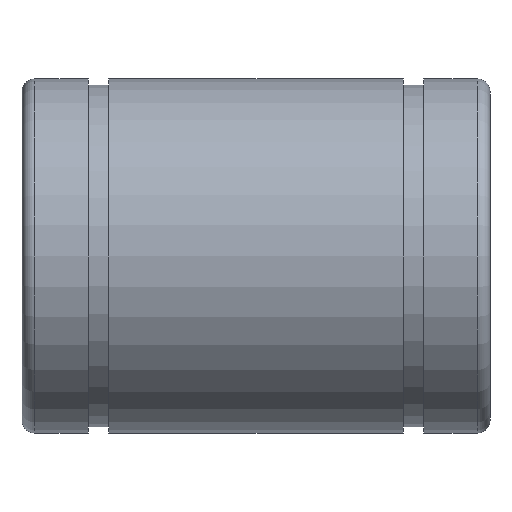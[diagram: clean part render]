
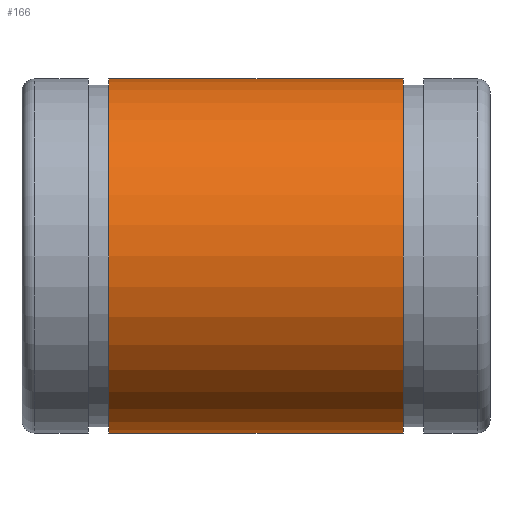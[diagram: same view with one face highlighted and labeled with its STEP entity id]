
A CAD part, front view. The second image highlights one B-rep face of the part: STEP entity #166.
In plain terms, the highlighted cylindrical face has radius 14 mm (diameter 28 mm), a full revolution.
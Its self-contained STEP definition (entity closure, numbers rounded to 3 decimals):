
#166=ADVANCED_FACE('',(#328,#330),#332,.T.);
#328=FACE_OUTER_BOUND('',#329,.T.);
#329=EDGE_LOOP('',(#406));
#330=FACE_OUTER_BOUND('',#331,.T.);
#331=EDGE_LOOP('',(#407));
#332=CYLINDRICAL_SURFACE('',#333,14.);
#333=AXIS2_PLACEMENT_3D('',#334,#335,#336);
#334=CARTESIAN_POINT('',(6.85,0.,0.));
#335=DIRECTION('',(1.,0.,0.));
#336=DIRECTION('',(0.,1.,0.));
#406=ORIENTED_EDGE('',*,*,#430,.F.);
#407=ORIENTED_EDGE('',*,*,#431,.T.);
#430=EDGE_CURVE('',#460,#460,#461,.T.);
#431=EDGE_CURVE('',#462,#462,#463,.T.);
#460=VERTEX_POINT('',#532);
#461=CIRCLE('',#533,14.);
#462=VERTEX_POINT('',#537);
#463=CIRCLE('',#538,14.);
#532=CARTESIAN_POINT('',(30.15,14.,0.));
#533=AXIS2_PLACEMENT_3D('',#534,#535,#536);
#534=CARTESIAN_POINT('',(30.15,0.,0.));
#535=DIRECTION('',(1.,0.,0.));
#536=DIRECTION('',(0.,1.,0.));
#537=CARTESIAN_POINT('',(6.85,14.,0.));
#538=AXIS2_PLACEMENT_3D('',#539,#540,#541);
#539=CARTESIAN_POINT('',(6.85,0.,0.));
#540=DIRECTION('',(1.,-0.,-0.));
#541=DIRECTION('',(0.,1.,0.));
